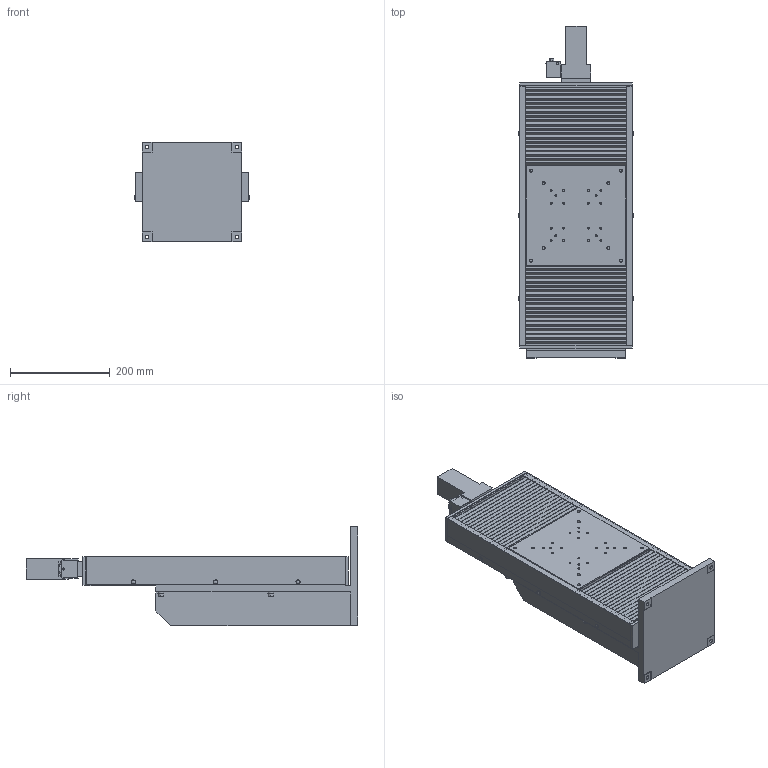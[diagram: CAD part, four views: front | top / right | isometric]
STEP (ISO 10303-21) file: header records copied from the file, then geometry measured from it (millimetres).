
FILE_DESCRIPTION (( 'STEP AP203' ), '1' );
FILE_NAME ('ALZ-220-C2PB.STEP', '2008-03-11T09:29:36', ( '' ), ( '' ), 'SwSTEP 2.0', 'SolidWorks 2007', '' );
FILE_SCHEMA (( 'CONFIG_CONTROL_DESIGN' ));
Length unit declared in the file: millimetre
Products named in the file (5): ALZ-220-C2PB; ALZ-220-C2PB-3_蹬怮椔; ALZ-220-C2PB-2_蹬怮椔; ALZ-220-C2PB-1_蹬怮椔; ALZ-220-C2PB-4_蹬怮椔
Assembly tree (4 placements, depth 2):
  ALZ-220-C2PB
    ALZ-220-C2PB-1_蹬怮椔
    ALZ-220-C2PB-2_蹬怮椔
    ALZ-220-C2PB-4_蹬怮椔
    ALZ-220-C2PB-3_蹬怮椔
Bounding box: 230.8 x 665 x 200 mm (x, y, z)
Volume: 5731768.4 mm3; surface area: 1212770.7 mm2
Topology: 4 solids, 11 shells, 809 faces, 2047 edges, 1354 vertices
Faces by surface type: plane 499, cylinder 283, cone 18, bspline 9
Entity records: 26826 total; most frequent: CARTESIAN_POINT 6074, DIRECTION 4245, ORIENTED_EDGE 4094, EDGE_CURVE 2047, VECTOR 1427, LINE 1427, AXIS2_PLACEMENT_3D 1409, VERTEX_POINT 1354
